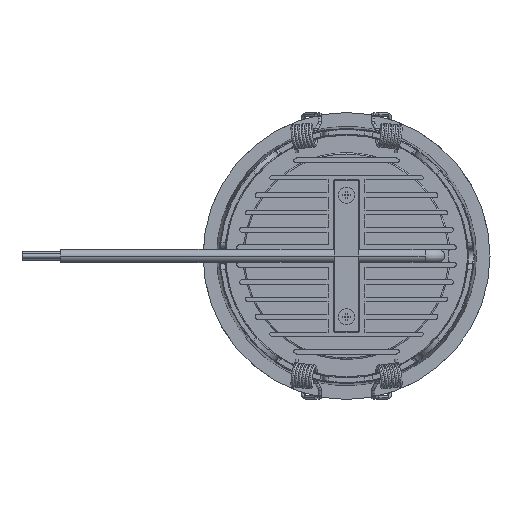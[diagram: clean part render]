
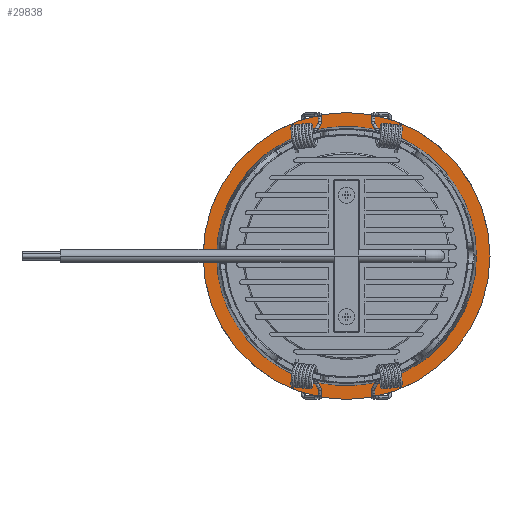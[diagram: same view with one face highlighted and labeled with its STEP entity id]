
A CAD part, front view. The second image highlights one B-rep face of the part: STEP entity #29838.
In plain terms, the highlighted planar face has unit normal (0, -1, 0).
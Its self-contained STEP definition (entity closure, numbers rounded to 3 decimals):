
#29507=CARTESIAN_POINT('',(0.,0.,0.));
#29508=DIRECTION('',(0.,1.,0.));
#29509=DIRECTION('',(1.,0.,0.));
#29510=AXIS2_PLACEMENT_3D('',#29507,#29508,#29509);
#29515=CARTESIAN_POINT('',(0.,0.,0.));
#29516=DIRECTION('',(0.,1.,0.));
#29517=DIRECTION('',(-1.,0.,0.));
#29518=AXIS2_PLACEMENT_3D('',#29515,#29516,#29517);
#29523=CARTESIAN_POINT('',(0.,0.,0.));
#29524=DIRECTION('',(0.,-1.,0.));
#29525=DIRECTION('',(1.,0.,0.));
#29526=AXIS2_PLACEMENT_3D('',#29523,#29524,#29525);
#29531=CARTESIAN_POINT('',(0.,0.,0.));
#29532=DIRECTION('',(0.,-1.,0.));
#29533=DIRECTION('',(-1.,0.,0.));
#29534=AXIS2_PLACEMENT_3D('',#29531,#29532,#29533);
#29773=CARTESIAN_POINT('',(52.75,0.,0.));
#29774=CARTESIAN_POINT('',(-52.75,0.,0.));
#29775=VERTEX_POINT('',#29773);
#29776=VERTEX_POINT('',#29774);
#29777=CARTESIAN_POINT('',(46.109,0.,0.));
#29778=CARTESIAN_POINT('',(-46.109,0.,0.));
#29779=VERTEX_POINT('',#29777);
#29780=VERTEX_POINT('',#29778);
#29821=CARTESIAN_POINT('',(0.,0.,0.));
#29822=DIRECTION('',(0.,1.,0.));
#29823=DIRECTION('',(1.,0.,0.));
#29824=AXIS2_PLACEMENT_3D('',#29821,#29822,#29823);
#29825=PLANE('',#29824);
#29827=ORIENTED_EDGE('',*,*,#29826,.T.);
#29829=ORIENTED_EDGE('',*,*,#29828,.T.);
#29830=EDGE_LOOP('',(#29827,#29829));
#29831=FACE_OUTER_BOUND('',#29830,.F.);
#29833=ORIENTED_EDGE('',*,*,#29832,.T.);
#29835=ORIENTED_EDGE('',*,*,#29834,.T.);
#29836=EDGE_LOOP('',(#29833,#29835));
#29837=FACE_BOUND('',#29836,.F.);
#29838=ADVANCED_FACE('',(#29831,#29837),#29825,.F.);
#29511=CIRCLE('',#29510,52.75);
#29519=CIRCLE('',#29518,52.75);
#29527=CIRCLE('',#29526,46.109);
#29535=CIRCLE('',#29534,46.109);
#29826=EDGE_CURVE('',#29775,#29776,#29511,.T.);
#29828=EDGE_CURVE('',#29776,#29775,#29519,.T.);
#29832=EDGE_CURVE('',#29779,#29780,#29527,.T.);
#29834=EDGE_CURVE('',#29780,#29779,#29535,.T.);
